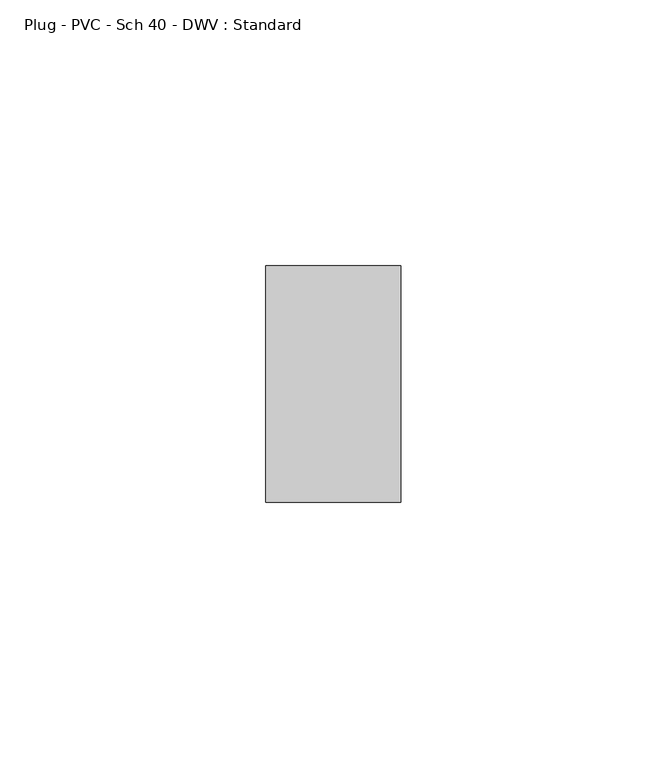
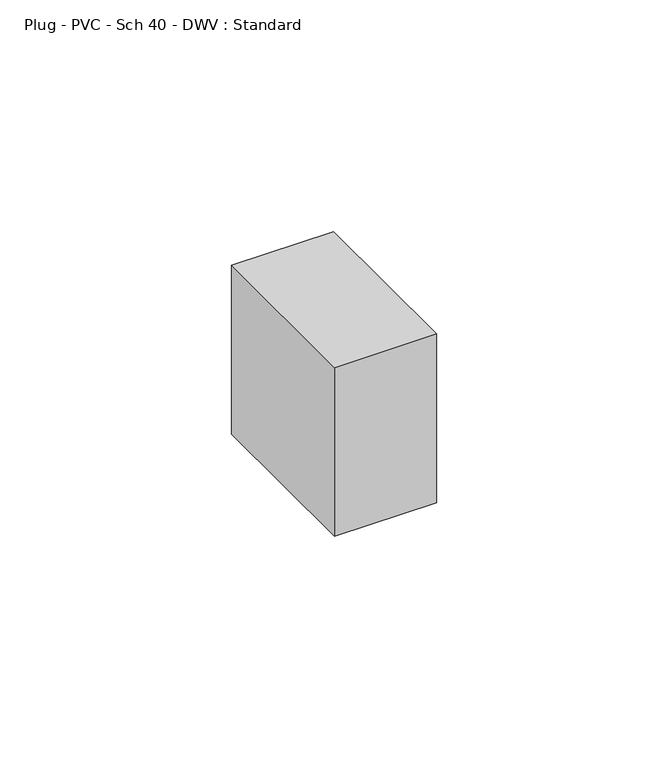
"""IFC4 building model written with IfcOpenShell, lengths in millimetres: pipe fitting geometry, Plug - PVC - Sch 40 - DWV : Standard."""

from ifc_helpers import new_model, si_unit, frame, origin, place, context, project, spatial, polyline, outline, extrude, source, transform, mapped, element, save


def plug_pvc_sch_40_dwv_standard_f522da5e(model_context):
    return source(origin(), model_context, "Body", "SweptSolid", [
        extrude(outline(polyline([(25.4, 22.225), (25.4, -22.225), (0.0, -22.225), (0.0, 22.225), (25.4, 22.225)])), frame((0.0, 0.0, -22.225), z_axis=(0.0, 0.0, 1.0), x_axis=(1.0, 0.0, 0.0)), (0.0, 0.0, 1.0), 44.45),
    ])


if __name__ == "__main__":
    model = new_model("IFC4")
    model_context = context("Model", 3, world=origin())
    ifc_project = project(units=[si_unit("LENGTHUNIT", "METRE", prefix="MILLI")], contexts=[model_context])
    site = spatial("IfcSite", under=ifc_project)
    building = spatial("IfcBuilding", under=site)
    placement = place(None, origin())
    plug_pvc_sch_40_dwv_standard_shape = plug_pvc_sch_40_dwv_standard_f522da5e(model_context)
    element("IfcPipeFitting", 1, ObjectType="Plug - PVC - Sch 40 - DWV : Standard", at=placement, inside=building, context=model_context, shape_type="MappedRepresentation", body=[
        mapped(plug_pvc_sch_40_dwv_standard_shape, transform((0.0, 0.0, 0.0), x_axis=(1.0, 0.0, 0.0), y_axis=(0.0, 1.0, 0.0), z_axis=(0.0, 0.0, 1.0))),
    ])
    save(model, "model.ifc")
